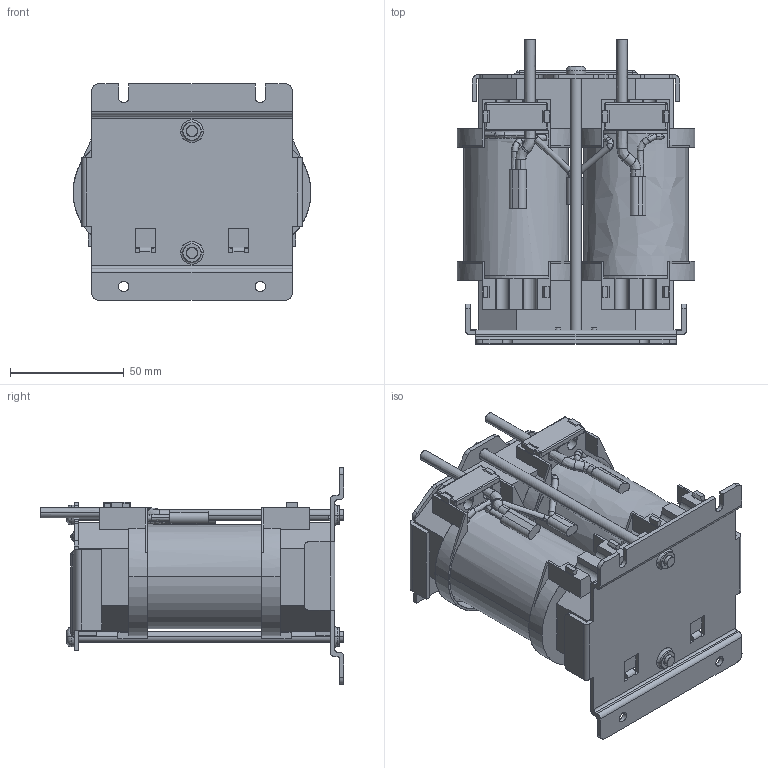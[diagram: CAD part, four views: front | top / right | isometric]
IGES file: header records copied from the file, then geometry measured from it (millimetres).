
Start section: SolidWorks IGES file using analytic representation for surfaces
Global section: file name: \\10.106.230.1\r&d file\05_COMP\02_Mechanical\10_Others\PV_RT 81\网络用3D模型\立式\网络用模型\5KW_P_DCL.IGS; native system: SolidWorks 2009; preprocessor: SolidWorks 2009; author: 钱雅婧,,1; organization: 1; date: 120508.151215; units: millimetre
Bounding box: 104.5 x 133.5 x 95 mm (x, y, z)
Surface area: 126426.6 mm2 (no closed solid volume)
Topology: 0 solids, 0 shells, 750 faces, 6516 edges, 6500 vertices
Faces by surface type: bspline 491, revolution 259
